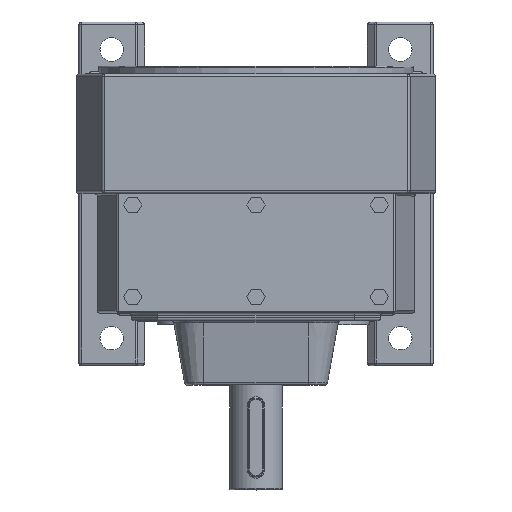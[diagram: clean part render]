
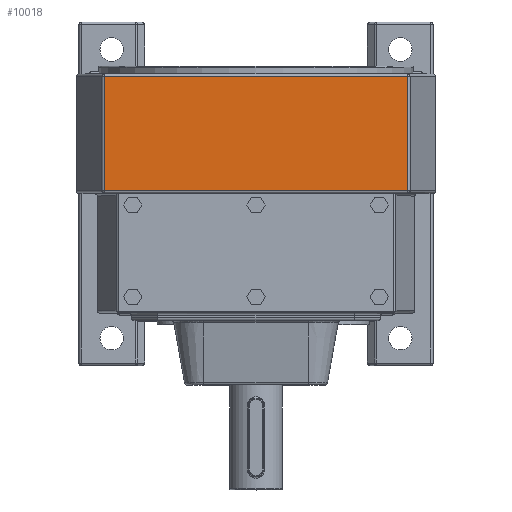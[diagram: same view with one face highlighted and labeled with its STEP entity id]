
A CAD part, top view. The second image highlights one B-rep face of the part: STEP entity #10018.
In plain terms, the highlighted planar face has unit normal (0, 0, 1).
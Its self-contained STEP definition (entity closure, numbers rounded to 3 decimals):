
#6578=CARTESIAN_POINT('',(-57.779,1.,136.0));
#6579=VERTEX_POINT('',#6578);
#6803=CARTESIAN_POINT('',(57.779,1.,136.));
#6804=VERTEX_POINT('',#6803);
#6839=CARTESIAN_POINT('',(57.779,1.,136.));
#6840=DIRECTION('',(-1.0,0.0,0.0));
#6841=VECTOR('',#6840,115.558);
#6842=LINE('',#6839,#6841);
#6843=EDGE_CURVE('',#6804,#6579,#6842,.T.);
#7052=CARTESIAN_POINT('',(57.779,44.5,136.));
#7053=VERTEX_POINT('',#7052);
#7088=CARTESIAN_POINT('',(57.779,44.5,136.));
#7089=DIRECTION('',(0.0,-1.0,0.0));
#7090=VECTOR('',#7089,43.5);
#7091=LINE('',#7088,#7090);
#7092=EDGE_CURVE('',#7053,#6804,#7091,.T.);
#7518=CARTESIAN_POINT('',(-57.779,44.5,136.0));
#7519=VERTEX_POINT('',#7518);
#7550=CARTESIAN_POINT('',(-57.779,1.,136.0));
#7551=DIRECTION('',(0.0,1.0,0.0));
#7552=VECTOR('',#7551,43.5);
#7553=LINE('',#7550,#7552);
#7554=EDGE_CURVE('',#6579,#7519,#7553,.T.);
#7565=CARTESIAN_POINT('',(-57.779,44.5,136.));
#7566=DIRECTION('',(1.0,0.0,0.0));
#7567=VECTOR('',#7566,115.558);
#7568=LINE('',#7565,#7567);
#7569=EDGE_CURVE('',#7519,#7053,#7568,.T.);
#10007=CARTESIAN_POINT('',(0.0,0.0,136.0));
#10008=DIRECTION('',(0.0,0.0,1.0));
#10009=DIRECTION('',(1.0,0.0,0.0));
#10010=AXIS2_PLACEMENT_3D('',#10007,#10008,#10009);
#10011=PLANE('',#10010);
#10012=ORIENTED_EDGE('',*,*,#6843,.F.);
#10013=ORIENTED_EDGE('',*,*,#7092,.F.);
#10014=ORIENTED_EDGE('',*,*,#7569,.F.);
#10015=ORIENTED_EDGE('',*,*,#7554,.F.);
#10016=EDGE_LOOP('',(#10012,#10013,#10014,#10015));
#10017=FACE_OUTER_BOUND('',#10016,.T.);
#10018=ADVANCED_FACE('',(#10017),#10011,.T.);
